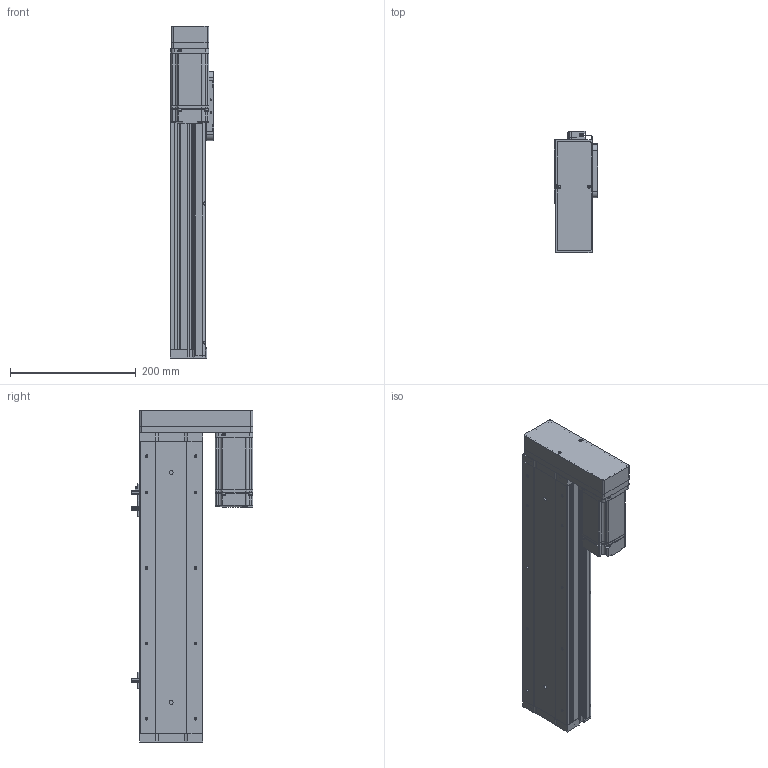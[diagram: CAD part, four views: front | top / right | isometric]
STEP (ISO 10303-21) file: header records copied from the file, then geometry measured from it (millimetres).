
FILE_DESCRIPTION (( 'STEP AP214' ), '1' );
FILE_NAME ('KSD100S-S300-MR-CR.STEP', '2019-09-03T01:06:14', ( '微软用户' ), ( '微软中国' ), 'SwSTEP 2.0', 'SolidWorks 2014', '' );
FILE_SCHEMA (( 'AUTOMOTIVE_DESIGN' ));
Length unit declared in the file: millimetre
Products named in the file (14): 感应片100宽全封闭; 100宽马达安装板全封闭; 100宽端板全封闭; 100宽滚珠螺姆安装板1防护罩; 100宽滚珠螺姆安装板1; 100遵裔啣揤啣; 100遵裔啣300俴最; 100遵耜啣300俴最佪裝; 100宽底板全封闭300行程丝杆; KSD100S-S300-MR-CR; MHMD042G1CA_2_03; U倰嫖萇EEㄜSX672; 悵誘欶酘衵殏; 100宽马达安装板连板左右折丝杆
Assembly tree (17 placements, depth 2):
  KSD100S-S300-MR-CR
    100宽底板全封闭300行程丝杆
    100遵耜啣300俴最佪裝  x2
    100遵裔啣300俴最
    100遵裔啣揤啣  x2
    100宽滚珠螺姆安装板1
    100宽滚珠螺姆安装板1防护罩
    100宽端板全封闭
    100宽马达安装板全封闭
    感应片100宽全封闭
    100宽马达安装板连板左右折丝杆
    悵誘欶酘衵殏
    U倰嫖萇EEㄜSX672  x3
    MHMD042G1CA_2_03
Bounding box: 70 x 193.7 x 528.5 mm (x, y, z)
Volume: 1183025.8 mm3; surface area: 558044.8 mm2
Topology: 16 solids, 17 shells, 1569 faces, 4368 edges, 2806 vertices
Faces by surface type: plane 695, cylinder 663, cone 193, bspline 18
Entity records: 52182 total; most frequent: CARTESIAN_POINT 8112, DIRECTION 7463, ORIENTED_EDGE 6924, EDGE_CURVE 3534, AXIS2_PLACEMENT_3D 2649, VERTEX_POINT 2344, VECTOR 2165, LINE 2165
